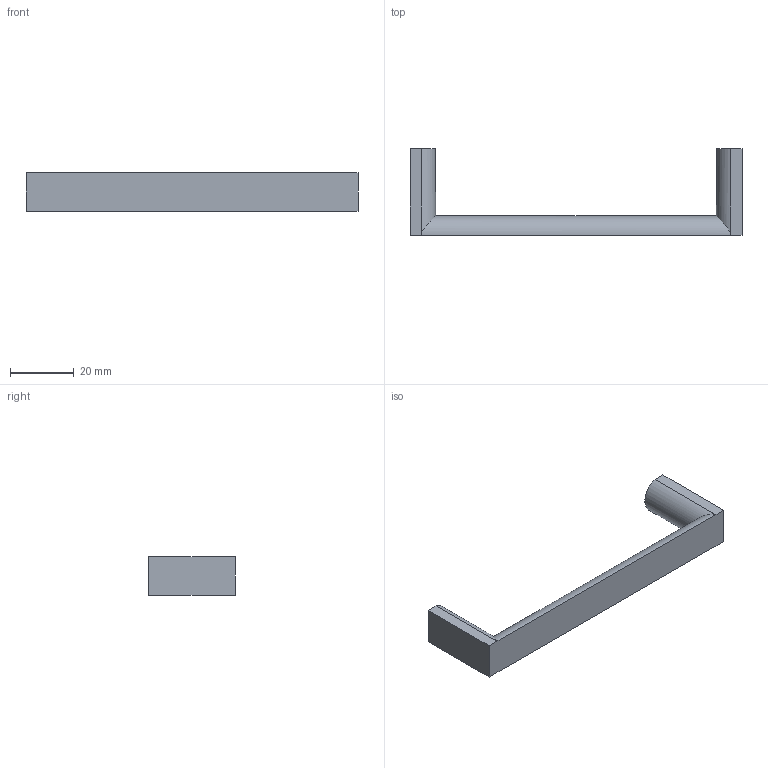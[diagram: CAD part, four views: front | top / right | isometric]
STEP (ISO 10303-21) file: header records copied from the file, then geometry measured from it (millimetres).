
FILE_DESCRIPTION( ( 'STEP AP214' ), '1' );
FILE_NAME( 'C:/Users/KOSH/Desktop/2021/Sunil/New folder/9995546.stp', '2021-11-15T13:10:49', ( '' ), ( '' ), ' ', 'PARTsolutions', ' ' );
FILE_SCHEMA( ( 'AUTOMOTIVE_DESIGN { 1 0 10303 214 1 1 1 1 }' ) );
Length unit declared in the file: millimetre
Products named in the file (1): _9995546
Bounding box: 104 x 27 x 12 mm (x, y, z)
Volume: 9186.4 mm3; surface area: 5202.5 mm2
Topology: 1 solids, 1 shells, 16 faces, 32 edges, 20 vertices
Faces by surface type: plane 11, cylinder 5
Full cylindrical faces by diameter (mm): 4 x2
Entity records: 642 total; most frequent: CARTESIAN_POINT 169, DIRECTION 68, ORIENTED_EDGE 60, EDGE_CURVE 30, AXIS2_PLACEMENT_3D 23, LINE 22, VECTOR 22, EDGE_LOOP 20
